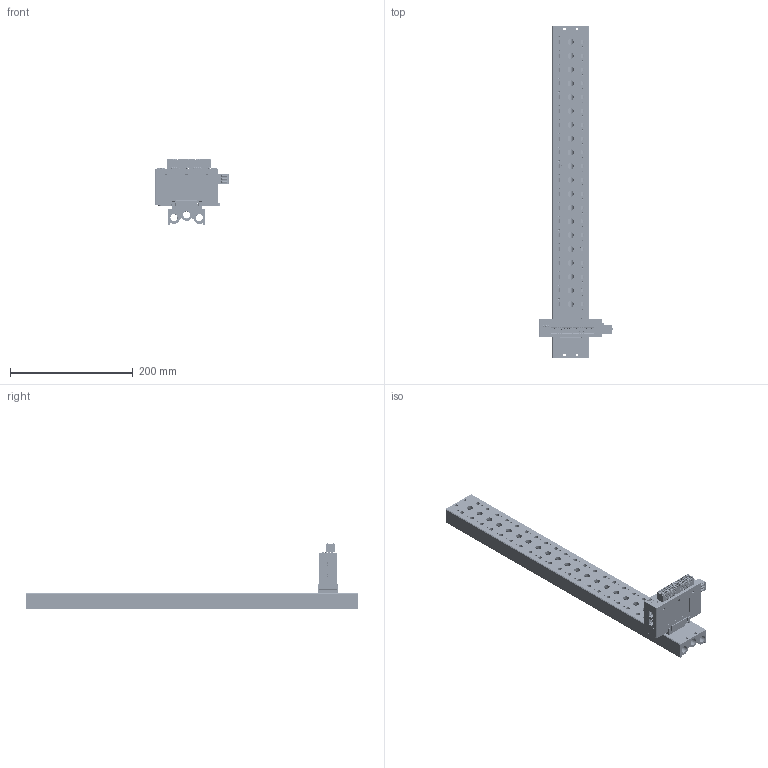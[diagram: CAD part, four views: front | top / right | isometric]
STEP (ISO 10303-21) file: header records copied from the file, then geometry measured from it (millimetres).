
FILE_DESCRIPTION(/* description */ (''),/* implementation_level */ '2;1');
FILE_NAME(/* name */ '',/* time_stamp */ '2025-10-09T16:14:01+08:00',/* author */ (''),/* organization */ (''),/* preprocessor_version */ 'ST-DEVELOPER v14',/* originating_system */ 'SIEMENS PLM Software NX 8.0',/* authorisation */ '');
FILE_SCHEMA (('AP203_CONFIGURATION_CONTROLLED_3D_DESIGN_OF_MECHANICAL_PARTS_AND_ASSEMBLIES_MIM_LF { 1 0 10303 403 2 1 2}'));
Products named in the file (1): DELL3E5857E9ucgq
Bounding box: 119.8 x 541 x 108.48 mm (x, y, z)
Volume: 692417.6 mm3; surface area: 228917.3 mm2
Topology: 2 solids, 228 shells, 10054 faces, 26659 edges, 17374 vertices
Faces by surface type: plane 6505, cylinder 2337, torus 336, bspline 328, cone 269, extrusion 184, sphere 95
Full cylindrical faces by diameter (mm): 0.18 x2, 2.5 x44, 3.05 x40, 3.3 x3, 3.5 x4, 4 x4, 4.5 x4, 6 x4, 6.5 x40, 9.6 x1, 10 x20, 11.492 x2, 11.5 x5, 11.8 x6
Entity records: 332829 total; most frequent: CARTESIAN_POINT 86038, ORIENTED_EDGE 51904, DIRECTION 49075, EDGE_CURVE 25952, VECTOR 18377, LINE 18193, VERTEX_POINT 17182, AXIS2_PLACEMENT_3D 15349
